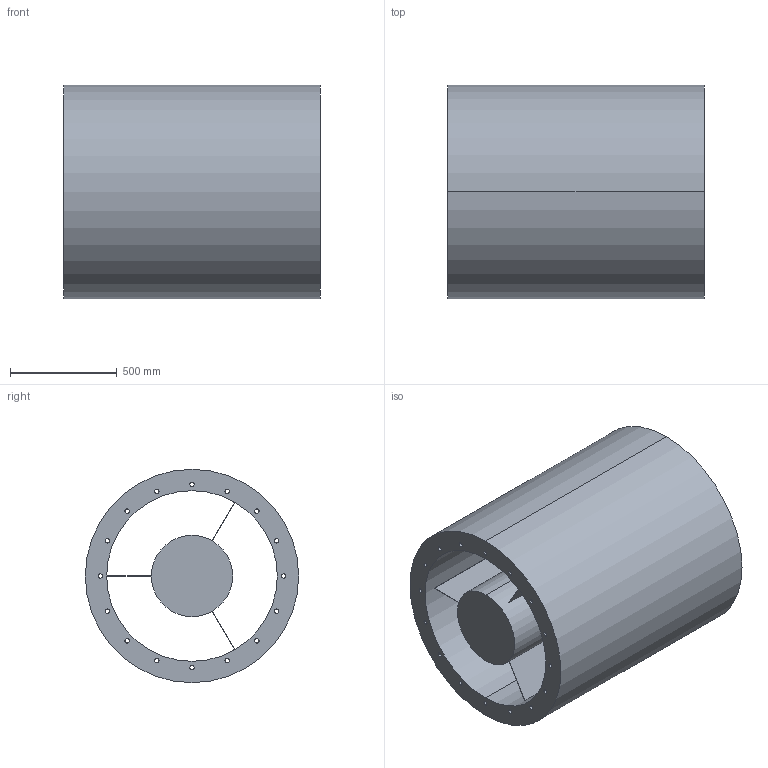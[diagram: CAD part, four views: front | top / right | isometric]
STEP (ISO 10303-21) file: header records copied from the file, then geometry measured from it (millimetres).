
FILE_DESCRIPTION(('STEP AP214'),'1');
FILE_NAME('accessory_5211815300.stp','2017-10-09T11:37:03',('TraceParts'),('TraceParts S.A.'),'Spatial InterOp 3D',' ',' ');
FILE_SCHEMA(('automotive_design'));
Length unit declared in the file: millimetre
Products named in the file (1): accessory_5211815300
Bounding box: 1200 x 1000 x 1000 mm (x, y, z)
Volume: 456290357.8 mm3; surface area: 11133169.2 mm2
Topology: 1 solids, 1 shells, 56 faces, 155 edges, 103 vertices
Faces by surface type: cylinder 38, plane 16, torus 2
Entity records: 2384 total; most frequent: DIRECTION 362, CARTESIAN_POINT 315, ORIENTED_EDGE 310, EDGE_CURVE 155, AXIS2_PLACEMENT_3D 150, VERTEX_POINT 103, EDGE_LOOP 96, CIRCLE 93
